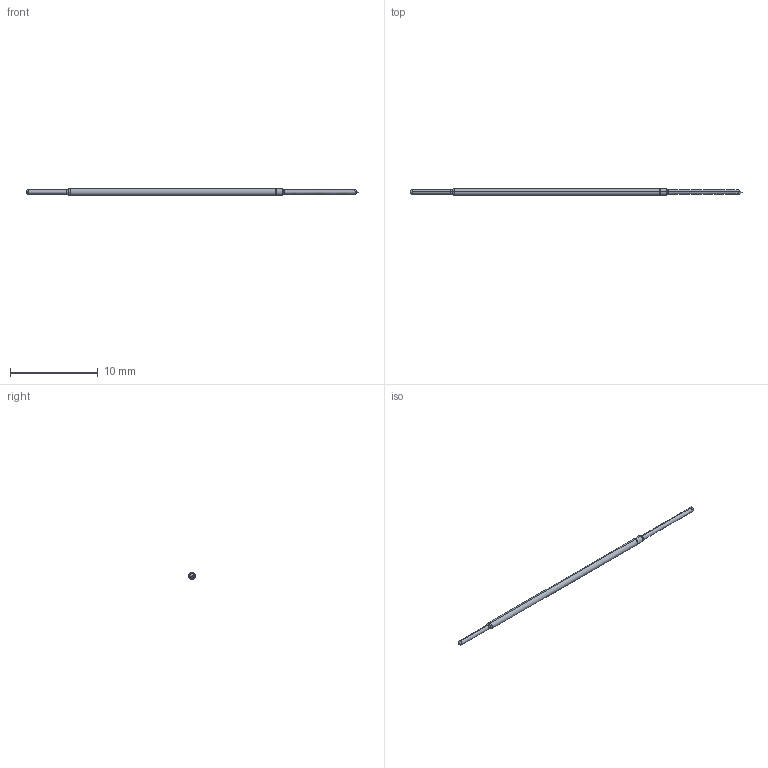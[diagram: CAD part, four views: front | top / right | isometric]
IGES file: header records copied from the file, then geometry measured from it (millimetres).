
Start section: SolidWorks IGES file using analytic representation for surfaces
Global section: file name: C:\Documents and Settings\mrumschlag\Desktop\changes\new\test\T20.IGS; native system: SolidWorks 2011; preprocessor: SolidWorks 2011; author: mrumschlag; date: 110630.142726; units: inch
Bounding box: 37.93 x 0.76 x 0.76 mm (x, y, z)
Surface area: 80.9 mm2 (no closed solid volume)
Topology: 0 solids, 0 shells, 26 faces, 162 edges, 160 vertices
Faces by surface type: revolution 14, bspline 12
